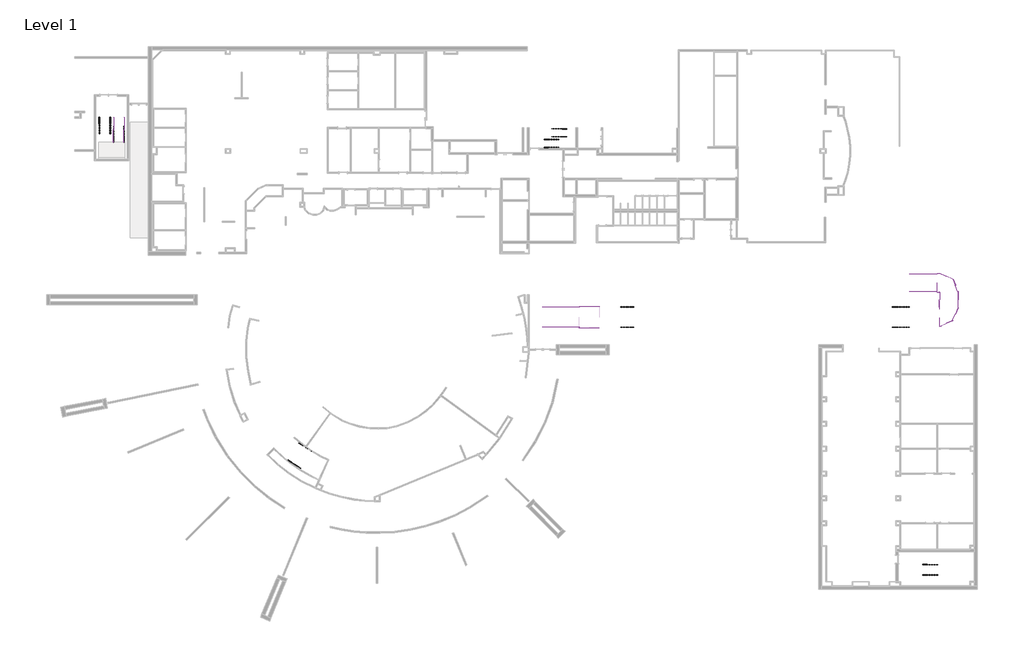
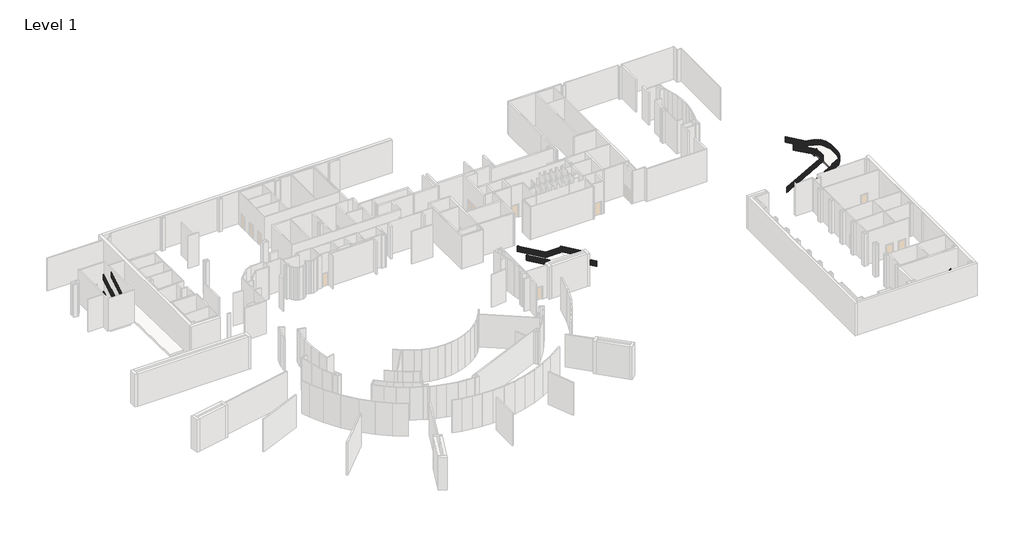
# One storey, part 10 of 10: 34 railings, 1 slab.
"""IFC4 building model written with IfcOpenShell, lengths in millimetres."""

from ifc_helpers import new_model, si_unit, point, frame, frame_2d, origin, place, context, project, spatial, polyline, circle_curve, trimmed, segment, composite_curve, outline, extrude, transform, mapped, element, save
from components import handrail_rectangular_afaba309, handrail_rectangular_4e1d5308, handrail_rectangular_18279bd5, handrail_rectangular_b14ff9f8, handrail_rectangular_4be4dc4f, handrail_rectangular_0b5e10db, handrail_rectangular_e08f16bb, handrail_rectangular_c1d8111d, handrail_rectangular_de24de94, handrail_rectangular_a3462fd7, handrail_rectangular_57d3ad48, handrail_rectangular_ebda34be, handrail_rectangular_2b5fb350, handrail_rectangular_904b3012, handrail_rectangular_46f00ba5, handrail_rectangular_682db563, handrail_rectangular_07e79f27, handrail_rectangular_c0ad0beb, handrail_rectangular_86ff91ed, handrail_rectangular_a6a2c14e, handrail_rectangular_7b67c339, handrail_rectangular_40be649f, handrail_rectangular_e01e2a21, handrail_rectangular_d835db19, handrail_rectangular_de2b99ac, handrail_rectangular_fb51a2ad, handrail_rectangular_0f75e75e, handrail_rectangular_7836a871, handrail_rectangular_5320fbd9, handrail_rectangular_6699b723, handrail_rectangular_91ad3c17, handrail_rectangular_bf8ceb73, handrail_rectangular_48260811, handrail_rectangular_047e9d67

model = new_model("IFC4")

# Units and contexts
model_context = context("Model", 3, world=origin())
ifc_project = project(units=[si_unit("LENGTHUNIT", "METRE", prefix="MILLI")], contexts=[model_context])

# Site, building, storey
site = spatial("IfcSite", under=ifc_project)
building = spatial("IfcBuilding", under=site)
storey = spatial("IfcBuildingStorey", under=building, Name="Level 1", Elevation=0.0)

# Railings
placement = place(None, origin())
handrail_rectangular_shape = handrail_rectangular_afaba309(model_context)
element("IfcRailing", 1, ObjectType="Handrail - Rectangular", at=placement, inside=storey, context=model_context, shape_type="MappedRepresentation", body=[
    mapped(handrail_rectangular_shape, transform((0.0, 0.0, 0.0), x_axis=(1.0, 0.0, 0.0), y_axis=(0.0, 1.0, 0.0), z_axis=(0.0, 0.0, 1.0))),
])
handrail_rectangular_2_shape = handrail_rectangular_4e1d5308(model_context)
element("IfcRailing", 2, ObjectType="Handrail - Rectangular", at=placement, inside=storey, context=model_context, shape_type="MappedRepresentation", body=[
    mapped(handrail_rectangular_2_shape, transform((0.0, 0.0, 0.0), x_axis=(1.0, 0.0, 0.0), y_axis=(0.0, 1.0, 0.0), z_axis=(0.0, 0.0, 1.0))),
])
handrail_rectangular_3_shape = handrail_rectangular_18279bd5(model_context)
element("IfcRailing", 3, ObjectType="Handrail - Rectangular", at=placement, inside=storey, context=model_context, shape_type="MappedRepresentation", body=[
    mapped(handrail_rectangular_3_shape, transform((0.0, 0.0, 0.0), x_axis=(1.0, 0.0, 0.0), y_axis=(0.0, 1.0, 0.0), z_axis=(0.0, 0.0, 1.0))),
])
handrail_rectangular_4_shape = handrail_rectangular_b14ff9f8(model_context)
element("IfcRailing", 4, ObjectType="Handrail - Rectangular", at=placement, inside=storey, context=model_context, shape_type="MappedRepresentation", body=[
    mapped(handrail_rectangular_4_shape, transform((0.0, 0.0, 0.0), x_axis=(1.0, 0.0, 0.0), y_axis=(0.0, 1.0, 0.0), z_axis=(0.0, 0.0, 1.0))),
])
handrail_rectangular_5_shape = handrail_rectangular_4be4dc4f(model_context)
element("IfcRailing", 5, ObjectType="Handrail - Rectangular", at=placement, inside=storey, context=model_context, shape_type="MappedRepresentation", body=[
    mapped(handrail_rectangular_5_shape, transform((0.0, 0.0, 0.0), x_axis=(1.0, 0.0, 0.0), y_axis=(0.0, 1.0, 0.0), z_axis=(0.0, 0.0, 1.0))),
])
handrail_rectangular_6_shape = handrail_rectangular_0b5e10db(model_context)
element("IfcRailing", 6, ObjectType="Handrail - Rectangular", at=placement, inside=storey, context=model_context, shape_type="MappedRepresentation", body=[
    mapped(handrail_rectangular_6_shape, transform((0.0, 0.0, 0.0), x_axis=(1.0, 0.0, 0.0), y_axis=(0.0, 1.0, 0.0), z_axis=(0.0, 0.0, 1.0))),
])
handrail_rectangular_7_shape = handrail_rectangular_e08f16bb(model_context)
element("IfcRailing", 7, ObjectType="Handrail - Rectangular", at=placement, inside=storey, context=model_context, shape_type="MappedRepresentation", body=[
    mapped(handrail_rectangular_7_shape, transform((0.0, 0.0, 0.0), x_axis=(1.0, 0.0, 0.0), y_axis=(0.0, 1.0, 0.0), z_axis=(0.0, 0.0, 1.0))),
])
handrail_rectangular_8_shape = handrail_rectangular_c1d8111d(model_context)
element("IfcRailing", 8, ObjectType="Handrail - Rectangular", at=placement, inside=storey, context=model_context, shape_type="MappedRepresentation", body=[
    mapped(handrail_rectangular_8_shape, transform((0.0, 0.0, 0.0), x_axis=(1.0, 0.0, 0.0), y_axis=(0.0, 1.0, 0.0), z_axis=(0.0, 0.0, 1.0))),
])
handrail_rectangular_9_shape = handrail_rectangular_de24de94(model_context)
element("IfcRailing", 9, ObjectType="Handrail - Rectangular", at=placement, inside=storey, context=model_context, shape_type="MappedRepresentation", body=[
    mapped(handrail_rectangular_9_shape, transform((0.0, 0.0, 0.0), x_axis=(1.0, 0.0, 0.0), y_axis=(0.0, 1.0, 0.0), z_axis=(0.0, 0.0, 1.0))),
])
handrail_rectangular_10_shape = handrail_rectangular_a3462fd7(model_context)
element("IfcRailing", 10, ObjectType="Handrail - Rectangular", at=placement, inside=storey, context=model_context, shape_type="MappedRepresentation", body=[
    mapped(handrail_rectangular_10_shape, transform((0.0, 0.0, 0.0), x_axis=(1.0, 0.0, 0.0), y_axis=(0.0, 1.0, 0.0), z_axis=(0.0, 0.0, 1.0))),
])
handrail_rectangular_11_shape = handrail_rectangular_57d3ad48(model_context)
element("IfcRailing", 11, ObjectType="Handrail - Rectangular", at=placement, inside=storey, context=model_context, shape_type="MappedRepresentation", body=[
    mapped(handrail_rectangular_11_shape, transform((0.0, 0.0, 0.0), x_axis=(1.0, 0.0, 0.0), y_axis=(0.0, 1.0, 0.0), z_axis=(0.0, 0.0, 1.0))),
])
handrail_rectangular_12_shape = handrail_rectangular_ebda34be(model_context)
element("IfcRailing", 12, ObjectType="Handrail - Rectangular", at=placement, inside=storey, context=model_context, shape_type="MappedRepresentation", body=[
    mapped(handrail_rectangular_12_shape, transform((0.0, 0.0, 0.0), x_axis=(1.0, 0.0, 0.0), y_axis=(0.0, 1.0, 0.0), z_axis=(0.0, 0.0, 1.0))),
])
handrail_rectangular_13_shape = handrail_rectangular_2b5fb350(model_context)
element("IfcRailing", 13, ObjectType="Handrail - Rectangular", at=placement, inside=storey, context=model_context, shape_type="MappedRepresentation", body=[
    mapped(handrail_rectangular_13_shape, transform((0.0, 0.0, 0.0), x_axis=(1.0, 0.0, 0.0), y_axis=(0.0, 1.0, 0.0), z_axis=(0.0, 0.0, 1.0))),
])
handrail_rectangular_14_shape = handrail_rectangular_904b3012(model_context)
element("IfcRailing", 14, ObjectType="Handrail - Rectangular", at=placement, inside=storey, context=model_context, shape_type="MappedRepresentation", body=[
    mapped(handrail_rectangular_14_shape, transform((0.0, 0.0, 0.0), x_axis=(1.0, 0.0, 0.0), y_axis=(0.0, 1.0, 0.0), z_axis=(0.0, 0.0, 1.0))),
])
handrail_rectangular_15_shape = handrail_rectangular_46f00ba5(model_context)
element("IfcRailing", 15, ObjectType="Handrail - Rectangular", at=placement, inside=storey, context=model_context, shape_type="MappedRepresentation", body=[
    mapped(handrail_rectangular_15_shape, transform((0.0, 0.0, 0.0), x_axis=(1.0, 0.0, 0.0), y_axis=(0.0, 1.0, 0.0), z_axis=(0.0, 0.0, 1.0))),
])
handrail_rectangular_16_shape = handrail_rectangular_682db563(model_context)
element("IfcRailing", 16, ObjectType="Handrail - Rectangular", at=placement, inside=storey, context=model_context, shape_type="MappedRepresentation", body=[
    mapped(handrail_rectangular_16_shape, transform((0.0, 0.0, 0.0), x_axis=(1.0, 0.0, 0.0), y_axis=(0.0, 1.0, 0.0), z_axis=(0.0, 0.0, 1.0))),
])
handrail_rectangular_17_shape = handrail_rectangular_07e79f27(model_context)
element("IfcRailing", 17, ObjectType="Handrail - Rectangular", at=placement, inside=storey, context=model_context, shape_type="MappedRepresentation", body=[
    mapped(handrail_rectangular_17_shape, transform((0.0, 0.0, 0.0), x_axis=(1.0, 0.0, 0.0), y_axis=(0.0, 1.0, 0.0), z_axis=(0.0, 0.0, 1.0))),
])
handrail_rectangular_18_shape = handrail_rectangular_c0ad0beb(model_context)
element("IfcRailing", 18, ObjectType="Handrail - Rectangular", at=placement, inside=storey, context=model_context, shape_type="MappedRepresentation", body=[
    mapped(handrail_rectangular_18_shape, transform((0.0, 0.0, 0.0), x_axis=(1.0, 0.0, 0.0), y_axis=(0.0, 1.0, 0.0), z_axis=(0.0, 0.0, 1.0))),
])
handrail_rectangular_19_shape = handrail_rectangular_86ff91ed(model_context)
element("IfcRailing", 19, ObjectType="Handrail - Rectangular", at=placement, inside=storey, context=model_context, shape_type="MappedRepresentation", body=[
    mapped(handrail_rectangular_19_shape, transform((0.0, 0.0, 0.0), x_axis=(1.0, 0.0, 0.0), y_axis=(0.0, 1.0, 0.0), z_axis=(0.0, 0.0, 1.0))),
])
handrail_rectangular_20_shape = handrail_rectangular_a6a2c14e(model_context)
element("IfcRailing", 20, ObjectType="Handrail - Rectangular", at=placement, inside=storey, context=model_context, shape_type="MappedRepresentation", body=[
    mapped(handrail_rectangular_20_shape, transform((0.0, 0.0, 0.0), x_axis=(1.0, 0.0, 0.0), y_axis=(0.0, 1.0, 0.0), z_axis=(0.0, 0.0, 1.0))),
])
handrail_rectangular_21_shape = handrail_rectangular_7b67c339(model_context)
element("IfcRailing", 21, ObjectType="Handrail - Rectangular", at=placement, inside=storey, context=model_context, shape_type="MappedRepresentation", body=[
    mapped(handrail_rectangular_21_shape, transform((0.0, 0.0, 0.0), x_axis=(1.0, 0.0, 0.0), y_axis=(0.0, 1.0, 0.0), z_axis=(0.0, 0.0, 1.0))),
])
handrail_rectangular_22_shape = handrail_rectangular_40be649f(model_context)
element("IfcRailing", 22, ObjectType="Handrail - Rectangular", at=placement, inside=storey, context=model_context, shape_type="MappedRepresentation", body=[
    mapped(handrail_rectangular_22_shape, transform((0.0, 0.0, 0.0), x_axis=(1.0, 0.0, 0.0), y_axis=(0.0, 1.0, 0.0), z_axis=(0.0, 0.0, 1.0))),
])
handrail_rectangular_23_shape = handrail_rectangular_e01e2a21(model_context)
element("IfcRailing", 23, ObjectType="Handrail - Rectangular", at=placement, inside=storey, context=model_context, shape_type="MappedRepresentation", body=[
    mapped(handrail_rectangular_23_shape, transform((0.0, 0.0, 0.0), x_axis=(1.0, 0.0, 0.0), y_axis=(0.0, 1.0, 0.0), z_axis=(0.0, 0.0, 1.0))),
])
handrail_rectangular_24_shape = handrail_rectangular_d835db19(model_context)
element("IfcRailing", 24, ObjectType="Handrail - Rectangular", at=placement, inside=storey, context=model_context, shape_type="MappedRepresentation", body=[
    mapped(handrail_rectangular_24_shape, transform((0.0, 0.0, 0.0), x_axis=(1.0, 0.0, 0.0), y_axis=(0.0, 1.0, 0.0), z_axis=(0.0, 0.0, 1.0))),
])
handrail_rectangular_25_shape = handrail_rectangular_de2b99ac(model_context)
element("IfcRailing", 25, ObjectType="Handrail - Rectangular", at=placement, inside=storey, context=model_context, shape_type="MappedRepresentation", body=[
    mapped(handrail_rectangular_25_shape, transform((0.0, 0.0, 0.0), x_axis=(1.0, 0.0, 0.0), y_axis=(0.0, 1.0, 0.0), z_axis=(0.0, 0.0, 1.0))),
])
handrail_rectangular_26_shape = handrail_rectangular_fb51a2ad(model_context)
element("IfcRailing", 26, ObjectType="Handrail - Rectangular", at=placement, inside=storey, context=model_context, shape_type="MappedRepresentation", body=[
    mapped(handrail_rectangular_26_shape, transform((0.0, 0.0, 0.0), x_axis=(1.0, 0.0, 0.0), y_axis=(0.0, 1.0, 0.0), z_axis=(0.0, 0.0, 1.0))),
])
handrail_rectangular_27_shape = handrail_rectangular_0f75e75e(model_context)
element("IfcRailing", 27, ObjectType="Handrail - Rectangular", at=placement, inside=storey, context=model_context, shape_type="MappedRepresentation", body=[
    mapped(handrail_rectangular_27_shape, transform((0.0, 0.0, 0.0), x_axis=(1.0, 0.0, 0.0), y_axis=(0.0, 1.0, 0.0), z_axis=(0.0, 0.0, 1.0))),
])
handrail_rectangular_28_shape = handrail_rectangular_7836a871(model_context)
element("IfcRailing", 28, ObjectType="Handrail - Rectangular", at=placement, inside=storey, context=model_context, shape_type="MappedRepresentation", body=[
    mapped(handrail_rectangular_28_shape, transform((0.0, 0.0, 0.0), x_axis=(1.0, 0.0, 0.0), y_axis=(0.0, 1.0, 0.0), z_axis=(0.0, 0.0, 1.0))),
])
handrail_rectangular_29_shape = handrail_rectangular_5320fbd9(model_context)
element("IfcRailing", 29, ObjectType="Handrail - Rectangular", at=placement, inside=storey, context=model_context, shape_type="MappedRepresentation", body=[
    mapped(handrail_rectangular_29_shape, transform((0.0, 0.0, 0.0), x_axis=(1.0, 0.0, 0.0), y_axis=(0.0, 1.0, 0.0), z_axis=(0.0, 0.0, 1.0))),
])
handrail_rectangular_30_shape = handrail_rectangular_6699b723(model_context)
element("IfcRailing", 30, ObjectType="Handrail - Rectangular", at=placement, inside=storey, context=model_context, shape_type="MappedRepresentation", body=[
    mapped(handrail_rectangular_30_shape, transform((0.0, 0.0, 0.0), x_axis=(1.0, 0.0, 0.0), y_axis=(0.0, 1.0, 0.0), z_axis=(0.0, 0.0, 1.0))),
])
handrail_rectangular_31_shape = handrail_rectangular_91ad3c17(model_context)
element("IfcRailing", 31, ObjectType="Handrail - Rectangular", at=placement, inside=storey, context=model_context, shape_type="MappedRepresentation", body=[
    mapped(handrail_rectangular_31_shape, transform((0.0, 0.0, 0.0), x_axis=(1.0, 0.0, 0.0), y_axis=(0.0, 1.0, 0.0), z_axis=(0.0, 0.0, 1.0))),
])
handrail_rectangular_32_shape = handrail_rectangular_bf8ceb73(model_context)
element("IfcRailing", 32, ObjectType="Handrail - Rectangular", at=placement, inside=storey, context=model_context, shape_type="MappedRepresentation", body=[
    mapped(handrail_rectangular_32_shape, transform((0.0, 0.0, 0.0), x_axis=(1.0, 0.0, 0.0), y_axis=(0.0, 1.0, 0.0), z_axis=(0.0, 0.0, 1.0))),
])
handrail_rectangular_33_shape = handrail_rectangular_48260811(model_context)
element("IfcRailing", 33, ObjectType="Handrail - Rectangular", at=placement, inside=storey, context=model_context, shape_type="MappedRepresentation", body=[
    mapped(handrail_rectangular_33_shape, transform((0.0, 0.0, 0.0), x_axis=(1.0, 0.0, 0.0), y_axis=(0.0, 1.0, 0.0), z_axis=(0.0, 0.0, 1.0))),
])
handrail_rectangular_34_shape = handrail_rectangular_047e9d67(model_context)
element("IfcRailing", 34, ObjectType="Handrail - Rectangular", at=placement, inside=storey, context=model_context, shape_type="MappedRepresentation", body=[
    mapped(handrail_rectangular_34_shape, transform((0.0, 0.0, 0.0), x_axis=(1.0, 0.0, 0.0), y_axis=(0.0, 1.0, 0.0), z_axis=(0.0, 0.0, 1.0))),
])

# Slab
element("IfcSlab", 35, ObjectType="Generic - 12\"", at=placement, inside=storey, context=model_context, shape_type="SweptSolid", body=[
    extrude(outline(composite_curve([segment(trimmed(circle_curve(frame_2d((93109.2164071, 6299.7214262)), 2371.0788274), [point((95479.7028463, 6246.7228683))], [point((93258.5894926, 3933.3523749))], False, "CARTESIAN"), True, "CONTINUOUS"), segment(polyline([(93258.5894926, 3933.3523749), (93258.5894926, 8151.9763375), (92954.1951063, 8151.9763375), (92954.1951063, 10451.3330511), (93258.9951063, 10451.3330511)]), True, "CONTINUOUS"), segment(trimmed(circle_curve(frame_2d((93178.6909492, 8151.7228683)), 2301.0118971), [point((93258.9951063, 10451.3330511))], [point((95479.7028463, 8151.7228683))], False, "CARTESIAN"), True, "CONTINUOUS"), segment(polyline([(95479.7028463, 8151.7228683), (95479.7028463, 6246.7228683)]), True, "CONTINUOUS")], self_intersect=False)), frame((0.0, 0.0, 3124.2), z_axis=(0.0, 0.0, 1.0), x_axis=(1.0, 0.0, 0.0)), (0.0, 0.0, 1.0), 304.8),
])

save(model, "model.ifc")
